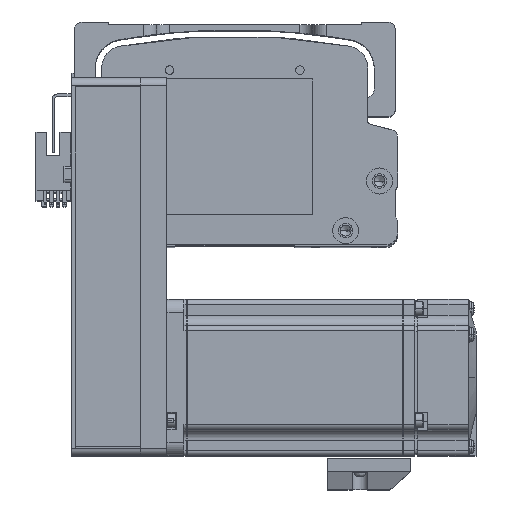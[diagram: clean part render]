
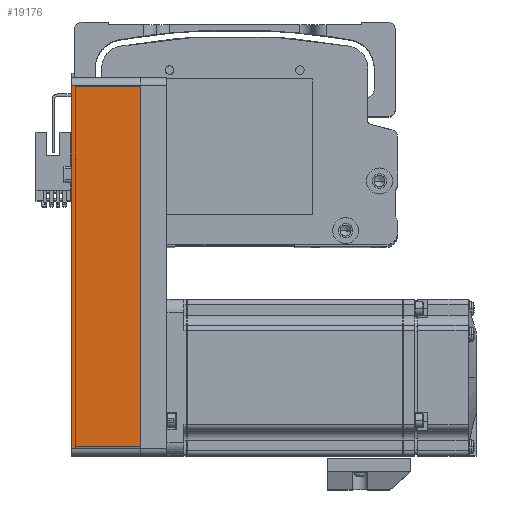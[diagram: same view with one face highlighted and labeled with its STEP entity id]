
A CAD part, top view. The second image highlights one B-rep face of the part: STEP entity #19176.
In plain terms, the highlighted planar face has unit normal (0, 0, 1) as drawn and (0, 1, 0) by its records, which use the part's own axes.
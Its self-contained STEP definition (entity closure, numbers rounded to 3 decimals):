
#994 = EDGE_CURVE ( 'NONE', #42838, #35077, #25453, .T. ) ;
#2270 = EDGE_CURVE ( 'NONE', #32973, #35077, #55080, .T. ) ;
#4792 = ORIENTED_EDGE ( 'NONE', *, *, #994, .F. ) ;
#7636 = VECTOR ( 'NONE', #32298, 1000. ) ;
#8972 = VECTOR ( 'NONE', #36786, 1000. ) ;
#11082 = EDGE_CURVE ( 'NONE', #42838, #33533, #60111, .T. ) ;
#11937 = CARTESIAN_POINT ( 'NONE',  ( 72.5, 30., 26.5 ) ) ;
#12763 = CARTESIAN_POINT ( 'NONE',  ( 69.5, 30., 26.5 ) ) ;
#14941 = CARTESIAN_POINT ( 'NONE',  ( 72.5, 30., 26.5 ) ) ;
#19176 = ADVANCED_FACE ( 'NONE', ( #72447 ), #39313, .F. ) ;
#19386 = CARTESIAN_POINT ( 'NONE',  ( 69.5, 30., 26.5 ) ) ;
#21209 = DIRECTION ( 'NONE',  ( 1., 0., 0. ) ) ;
#25453 = LINE ( 'NONE', #11937, #8972 ) ;
#32298 = DIRECTION ( 'NONE',  ( 0., 0., 1. ) ) ;
#32973 = VERTEX_POINT ( 'NONE', #37322 ) ;
#33533 = VERTEX_POINT ( 'NONE', #42957 ) ;
#35077 = VERTEX_POINT ( 'NONE', #42622 ) ;
#36786 = DIRECTION ( 'NONE',  ( -1., 0., 0. ) ) ;
#37322 = CARTESIAN_POINT ( 'NONE',  ( -69.5, 30., 0. ) ) ;
#39313 = PLANE ( 'NONE',  #40787 ) ;
#40787 = AXIS2_PLACEMENT_3D ( 'NONE', #14941, #58287, #21209 ) ;
#42622 = CARTESIAN_POINT ( 'NONE',  ( -69.5, 30., 26.5 ) ) ;
#42838 = VERTEX_POINT ( 'NONE', #12763 ) ;
#42957 = CARTESIAN_POINT ( 'NONE',  ( 69.5, 30., 0. ) ) ;
#43506 = EDGE_LOOP ( 'NONE', ( #64962, #67907, #4792, #74967 ) ) ;
#43632 = VECTOR ( 'NONE', #50438, 1000. ) ;
#50438 = DIRECTION ( 'NONE',  ( 0., 0., -1. ) ) ;
#51790 = DIRECTION ( 'NONE',  ( -1., 0., 0. ) ) ;
#54590 = VECTOR ( 'NONE', #51790, 1000. ) ;
#55080 = LINE ( 'NONE', #69369, #7636 ) ;
#56547 = LINE ( 'NONE', #64248, #54590 ) ;
#58287 = DIRECTION ( 'NONE',  ( 0., -1., 0. ) ) ;
#60111 = LINE ( 'NONE', #19386, #43632 ) ;
#64248 = CARTESIAN_POINT ( 'NONE',  ( 72.5, 30., 0. ) ) ;
#64962 = ORIENTED_EDGE ( 'NONE', *, *, #76648, .T. ) ;
#67907 = ORIENTED_EDGE ( 'NONE', *, *, #2270, .T. ) ;
#69369 = CARTESIAN_POINT ( 'NONE',  ( -69.5, 30., 26.5 ) ) ;
#72447 = FACE_OUTER_BOUND ( 'NONE', #43506, .T. ) ;
#74967 = ORIENTED_EDGE ( 'NONE', *, *, #11082, .T. ) ;
#76648 = EDGE_CURVE ( 'NONE', #33533, #32973, #56547, .T. ) ;
